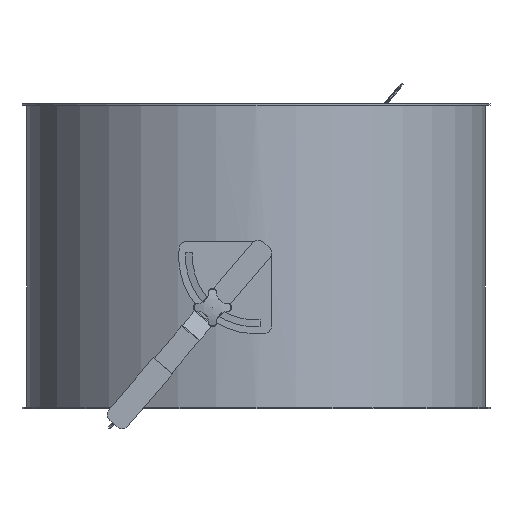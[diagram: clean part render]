
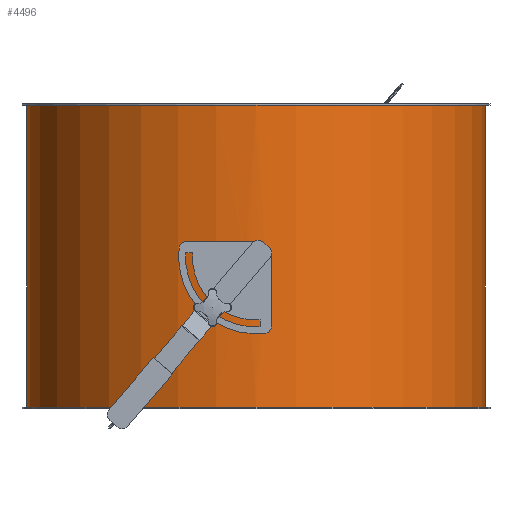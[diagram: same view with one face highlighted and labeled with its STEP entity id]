
A CAD part, left-side view. The second image highlights one B-rep face of the part: STEP entity #4496.
In plain terms, the highlighted cylindrical face has radius 301 mm (diameter 602 mm), a full revolution.
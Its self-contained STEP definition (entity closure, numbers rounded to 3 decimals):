
#4385=CARTESIAN_POINT('',(300.386,19.213,200.));
#4386=VERTEX_POINT('',#4385);
#4396=CARTESIAN_POINT('',(300.386,19.212,200.));
#4397=CARTESIAN_POINT('',(300.386,19.212,200.002));
#4398=CARTESIAN_POINT('',(300.386,19.212,200.005));
#4399=CARTESIAN_POINT('',(300.386,19.212,200.007));
#4400=CARTESIAN_POINT('',(300.386,19.211,202.909));
#4401=CARTESIAN_POINT('',(300.451,18.246,207.245));
#4402=CARTESIAN_POINT('',(300.622,15.166,212.232));
#4403=CARTESIAN_POINT('',(300.763,12.111,215.349));
#4404=CARTESIAN_POINT('',(300.89,8.428,217.704));
#4405=CARTESIAN_POINT('',(301.008,2.988,219.649));
#4406=CARTESIAN_POINT('',(301.012,-5.392,219.68));
#4407=CARTESIAN_POINT('',(300.73,-13.199,215.112));
#4408=CARTESIAN_POINT('',(300.492,-17.552,208.608));
#4409=CARTESIAN_POINT('',(300.342,-19.872,201.09));
#4410=CARTESIAN_POINT('',(300.438,-18.524,192.035));
#4411=CARTESIAN_POINT('',(300.772,-12.401,184.249));
#4412=CARTESIAN_POINT('',(301.009,-4.429,180.34));
#4413=CARTESIAN_POINT('',(301.01,4.412,180.34));
#4414=CARTESIAN_POINT('',(300.772,12.382,184.225));
#4415=CARTESIAN_POINT('',(300.524,16.982,190.089));
#4416=CARTESIAN_POINT('',(300.408,18.884,195.615));
#4417=CARTESIAN_POINT('',(300.386,19.212,198.551));
#4418=CARTESIAN_POINT('',(300.386,19.212,200.));
#4419=B_SPLINE_CURVE_WITH_KNOTS('',3,(#4396,#4397,#4398,#4399,#4400,#4401,#4402,#4403,#4404,#4405,#4406,#4407,#4408,#4409,#4410,#4411,#4412,#4413,#4414,#4415,#4416,#4417,#4418),.UNSPECIFIED.,.T.,.U.,(4,3,1,1,1,1,1,1,1,1,1,1,1,1,1,1,1,1,4),(-9.043,-9.042,-8.396,-8.073,-7.75,-7.427,-7.104,-6.459,-5.597,-5.167,-4.736,-3.875,-3.229,-2.583,-1.938,-1.292,-0.646,-0.323,-0.001),.UNSPECIFIED.);
#4420=EDGE_CURVE('',#4386,#4386,#4419,.T.);
#4425=CARTESIAN_POINT('',(0.0,0.0,0.0));
#4426=DIRECTION('',(0.0,0.0,1.0));
#4427=DIRECTION('',(-1.0,0.0,0.0));
#4428=AXIS2_PLACEMENT_3D('',#4425,#4426,#4427);
#4429=CYLINDRICAL_SURFACE('',#4428,301.0);
#4430=CARTESIAN_POINT('',(301.0,0.,398.0));
#4431=VERTEX_POINT('',#4430);
#4432=CARTESIAN_POINT('',(0.0,0.0,398.0));
#4433=DIRECTION('',(0.0,0.0,-1.0));
#4434=DIRECTION('',(-1.0,0.0,0.0));
#4435=AXIS2_PLACEMENT_3D('',#4432,#4433,#4434);
#4436=CIRCLE('',#4435,301.0);
#4437=EDGE_CURVE('',#4431,#4431,#4436,.T.);
#4438=ORIENTED_EDGE('',*,*,#4437,.T.);
#4439=EDGE_LOOP('',(#4438));
#4440=FACE_OUTER_BOUND('',#4439,.T.);
#4441=CARTESIAN_POINT('',(-301.0,0.,2.0));
#4442=VERTEX_POINT('',#4441);
#4443=CARTESIAN_POINT('',(0.0,0.0,2.0));
#4444=DIRECTION('',(0.0,0.0,1.0));
#4445=DIRECTION('',(-1.0,0.0,0.0));
#4446=AXIS2_PLACEMENT_3D('',#4443,#4444,#4445);
#4447=CIRCLE('',#4446,301.0);
#4448=EDGE_CURVE('',#4442,#4442,#4447,.T.);
#4449=ORIENTED_EDGE('',*,*,#4448,.T.);
#4450=EDGE_LOOP('',(#4449));
#4451=FACE_BOUND('',#4450,.T.);
#4452=CARTESIAN_POINT('',(-300.626,15.,200.0));
#4453=VERTEX_POINT('',#4452);
#4454=CARTESIAN_POINT('',(-300.626,15.,200.0));
#4455=CARTESIAN_POINT('',(-300.626,15.,201.884));
#4456=CARTESIAN_POINT('',(-300.646,14.623,203.893));
#4457=CARTESIAN_POINT('',(-300.716,13.093,207.588));
#4458=CARTESIAN_POINT('',(-300.766,11.938,209.275));
#4459=CARTESIAN_POINT('',(-300.86,9.275,211.938));
#4460=CARTESIAN_POINT('',(-300.91,7.588,213.093));
#4461=CARTESIAN_POINT('',(-300.98,3.893,214.623));
#4462=CARTESIAN_POINT('',(-301.0,1.884,215.0));
#4463=CARTESIAN_POINT('',(-301.0,-1.884,215.0));
#4464=CARTESIAN_POINT('',(-300.98,-3.893,214.623));
#4465=CARTESIAN_POINT('',(-300.91,-7.588,213.093));
#4466=CARTESIAN_POINT('',(-300.86,-9.275,211.938));
#4467=CARTESIAN_POINT('',(-300.766,-11.938,209.275));
#4468=CARTESIAN_POINT('',(-300.716,-13.093,207.588));
#4469=CARTESIAN_POINT('',(-300.646,-14.623,203.893));
#4470=CARTESIAN_POINT('',(-300.626,-15.0,201.884));
#4471=CARTESIAN_POINT('',(-300.626,-15.0,198.116));
#4472=CARTESIAN_POINT('',(-300.646,-14.623,196.107));
#4473=CARTESIAN_POINT('',(-300.716,-13.093,192.412));
#4474=CARTESIAN_POINT('',(-300.766,-11.938,190.725));
#4475=CARTESIAN_POINT('',(-300.86,-9.275,188.062));
#4476=CARTESIAN_POINT('',(-300.91,-7.588,186.907));
#4477=CARTESIAN_POINT('',(-300.98,-3.893,185.377));
#4478=CARTESIAN_POINT('',(-301.0,-1.884,185.0));
#4479=CARTESIAN_POINT('',(-301.0,1.884,185.0));
#4480=CARTESIAN_POINT('',(-300.98,3.893,185.377));
#4481=CARTESIAN_POINT('',(-300.91,7.588,186.907));
#4482=CARTESIAN_POINT('',(-300.86,9.275,188.062));
#4483=CARTESIAN_POINT('',(-300.766,11.938,190.725));
#4484=CARTESIAN_POINT('',(-300.716,13.093,192.412));
#4485=CARTESIAN_POINT('',(-300.646,14.623,196.107));
#4486=CARTESIAN_POINT('',(-300.626,15.0,198.116));
#4487=CARTESIAN_POINT('',(-300.626,15.0,200.0));
#4488=B_SPLINE_CURVE_WITH_KNOTS('',3,(#4454,#4455,#4456,#4457,#4458,#4459,#4460,#4461,#4462,#4463,#4464,#4465,#4466,#4467,#4468,#4469,#4470,#4471,#4472,#4473,#4474,#4475,#4476,#4477,#4478,#4479,#4480,#4481,#4482,#4483,#4484,#4485,#4486,#4487),.UNSPECIFIED.,.T.,.U.,(4,2,2,2,2,2,2,2,2,2,2,2,2,2,2,2,4),(0.0,0.565,1.13,1.695,2.261,2.826,3.391,3.956,4.521,5.086,5.651,6.216,6.782,7.347,7.912,8.477,9.042),.UNSPECIFIED.);
#4489=EDGE_CURVE('',#4453,#4453,#4488,.T.);
#4490=ORIENTED_EDGE('',*,*,#4489,.T.);
#4491=EDGE_LOOP('',(#4490));
#4492=FACE_BOUND('',#4491,.T.);
#4493=ORIENTED_EDGE('',*,*,#4420,.F.);
#4494=EDGE_LOOP('',(#4493));
#4495=FACE_BOUND('',#4494,.T.);
#4496=ADVANCED_FACE('',(#4440,#4451,#4492,#4495),#4429,.T.);
